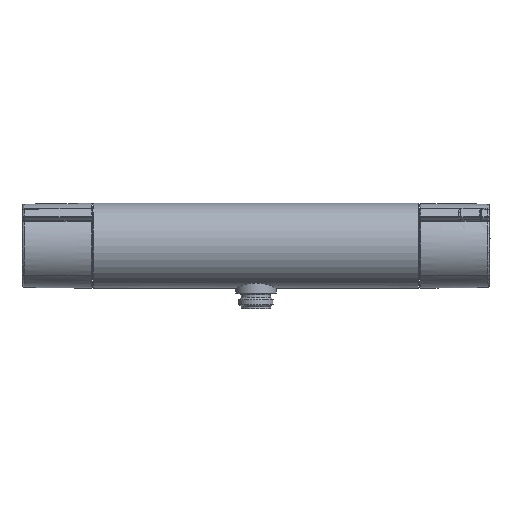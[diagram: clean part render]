
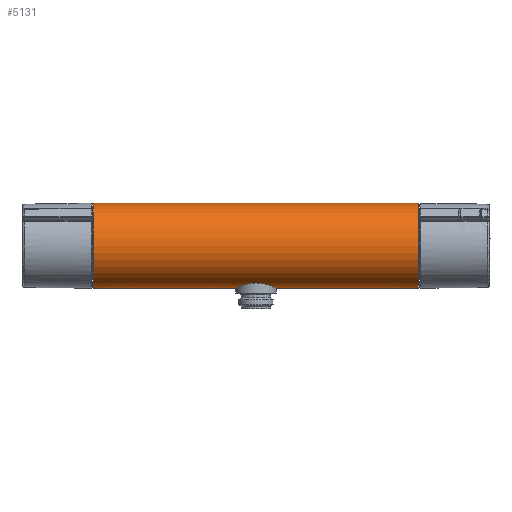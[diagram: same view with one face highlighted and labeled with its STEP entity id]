
A CAD part, top view. The second image highlights one B-rep face of the part: STEP entity #5131.
In plain terms, the highlighted cylindrical face has radius 26 mm (diameter 52 mm), a partial arc.
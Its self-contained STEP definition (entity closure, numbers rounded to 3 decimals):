
#156 = ORIENTED_EDGE ( 'NONE', *, *, #1881, .T. ) ;
#343 = LINE ( 'NONE', #6023, #4234 ) ;
#539 = CARTESIAN_POINT ( 'NONE',  ( 12.445, -25.609, 42.835 ) ) ;
#545 = CARTESIAN_POINT ( 'NONE',  ( -11.262, -25.062, 47.08 ) ) ;
#584 = CARTESIAN_POINT ( 'NONE',  ( -3.222, -22.657, 53.681 ) ) ;
#618 = CARTESIAN_POINT ( 'NONE',  ( 6.834, -23.434, 52.071 ) ) ;
#852 = VERTEX_POINT ( 'NONE', #8464 ) ;
#1198 = AXIS2_PLACEMENT_3D ( 'NONE', #8927, #8166, #4966 ) ;
#1203 = CYLINDRICAL_SURFACE ( 'NONE', #1198, 26. ) ;
#1279 = CARTESIAN_POINT ( 'NONE',  ( 8.983, -24.133, 50.325 ) ) ;
#1322 = CARTESIAN_POINT ( 'NONE',  ( -10.237, -24.626, 48.781 ) ) ;
#1354 = CARTESIAN_POINT ( 'NONE',  ( -1.238, -22.453, 54.062 ) ) ;
#1364 = DIRECTION ( 'NONE',  ( 1., 0., 0. ) ) ;
#1393 = CARTESIAN_POINT ( 'NONE',  ( 7.799, -23.729, 51.374 ) ) ;
#1711 = DIRECTION ( 'NONE',  ( 1., 0., 0. ) ) ;
#1881 = EDGE_CURVE ( 'NONE', #7948, #4400, #9661, .T. ) ;
#2054 = CARTESIAN_POINT ( 'NONE',  ( 10.226, -24.621, 48.797 ) ) ;
#2091 = CARTESIAN_POINT ( 'NONE',  ( -9.506, -24.335, 49.723 ) ) ;
#2118 = CARTESIAN_POINT ( 'NONE',  ( 0.383, -22.433, 54.098 ) ) ;
#2323 = EDGE_CURVE ( 'NONE', #5332, #852, #5660, .T. ) ;
#2669 = ORIENTED_EDGE ( 'NONE', *, *, #4694, .T. ) ;
#2747 = AXIS2_PLACEMENT_3D ( 'NONE', #8349, #3600, #9135 ) ;
#2822 = CARTESIAN_POINT ( 'NONE',  ( 10.869, -24.891, 47.784 ) ) ;
#2866 = CARTESIAN_POINT ( 'NONE',  ( -8.425, -23.935, 50.865 ) ) ;
#2903 = CARTESIAN_POINT ( 'NONE',  ( 1.609, -22.487, 54. ) ) ;
#3087 = ORIENTED_EDGE ( 'NONE', *, *, #5365, .F. ) ;
#3116 = LINE ( 'NONE', #5443, #5467 ) ;
#3352 = CARTESIAN_POINT ( 'NONE',  ( 12.5, -25.635, 41.736 ) ) ;
#3498 = FACE_OUTER_BOUND ( 'NONE', #3701, .T. ) ;
#3550 = CARTESIAN_POINT ( 'NONE',  ( -12.5, -25.635, 42.419 ) ) ;
#3600 = DIRECTION ( 'NONE',  ( 1., 0., 0. ) ) ;
#3618 = CARTESIAN_POINT ( 'NONE',  ( 11.583, -25.205, 46.363 ) ) ;
#3663 = CARTESIAN_POINT ( 'NONE',  ( -6.521, -23.339, 52.291 ) ) ;
#3695 = CARTESIAN_POINT ( 'NONE',  ( 3.586, -22.702, 53.599 ) ) ;
#3701 = EDGE_LOOP ( 'NONE', ( #8866, #4577, #9718, #156, #2669, #6136, #3087 ) ) ;
#4234 = VECTOR ( 'NONE', #1364, 1000. ) ;
#4270 = CARTESIAN_POINT ( 'NONE',  ( 57., 26.365, 41.597 ) ) ;
#4400 = VERTEX_POINT ( 'NONE', #8273 ) ;
#4414 = CARTESIAN_POINT ( 'NONE',  ( 12.179, -25.482, 44.441 ) ) ;
#4420 = CARTESIAN_POINT ( 'NONE',  ( -12.088, -25.44, 44.806 ) ) ;
#4451 = CARTESIAN_POINT ( 'NONE',  ( -4.748, -22.92, 53.167 ) ) ;
#4486 = CARTESIAN_POINT ( 'NONE',  ( 5.093, -22.993, 53.019 ) ) ;
#4577 = ORIENTED_EDGE ( 'NONE', *, *, #4877, .T. ) ;
#4694 = EDGE_CURVE ( 'NONE', #4400, #5813, #6453, .T. ) ;
#4877 = EDGE_CURVE ( 'NONE', #5332, #8482, #8961, .T. ) ;
#4900 = CARTESIAN_POINT ( 'NONE',  ( 12.481, -25.626, 42.292 ) ) ;
#4966 = DIRECTION ( 'NONE',  ( 0., -1., 0. ) ) ;
#5131 = ADVANCED_FACE ( 'NONE', ( #3498 ), #1203, .T. ) ;
#5169 = CARTESIAN_POINT ( 'NONE',  ( -12.5, -25.635, 41.597 ) ) ;
#5199 = CARTESIAN_POINT ( 'NONE',  ( 12.399, -25.587, 43.237 ) ) ;
#5210 = CARTESIAN_POINT ( 'NONE',  ( -11.718, -25.268, 45.966 ) ) ;
#5248 = CARTESIAN_POINT ( 'NONE',  ( -3.615, -22.715, 53.57 ) ) ;
#5287 = CARTESIAN_POINT ( 'NONE',  ( 6.158, -23.248, 52.482 ) ) ;
#5332 = VERTEX_POINT ( 'NONE', #7702 ) ;
#5359 = CIRCLE ( 'NONE', #6979, 26. ) ;
#5365 = EDGE_CURVE ( 'NONE', #852, #7241, #5359, .T. ) ;
#5443 = CARTESIAN_POINT ( 'NONE',  ( 57., -25.635, 41.597 ) ) ;
#5467 = VECTOR ( 'NONE', #7031, 1000. ) ;
#5511 = CARTESIAN_POINT ( 'NONE',  ( 12.5, -25.635, 41.597 ) ) ;
#5660 = LINE ( 'NONE', #4270, #9870 ) ;
#5813 = VERTEX_POINT ( 'NONE', #5511 ) ;
#5969 = CARTESIAN_POINT ( 'NONE',  ( 8.106, -23.83, 51.12 ) ) ;
#6002 = CARTESIAN_POINT ( 'NONE',  ( 12.472, -25.622, 42.431 ) ) ;
#6012 = CARTESIAN_POINT ( 'NONE',  ( -10.891, -24.898, 47.783 ) ) ;
#6023 = CARTESIAN_POINT ( 'NONE',  ( 57., -25.635, 41.597 ) ) ;
#6047 = CARTESIAN_POINT ( 'NONE',  ( -2.038, -22.511, 53.956 ) ) ;
#6084 = CARTESIAN_POINT ( 'NONE',  ( 7.162, -23.53, 51.849 ) ) ;
#6136 = ORIENTED_EDGE ( 'NONE', *, *, #7880, .T. ) ;
#6401 = CARTESIAN_POINT ( 'NONE',  ( 99.5, 0.365, 41.597 ) ) ;
#6453 = B_SPLINE_CURVE_WITH_KNOTS ( 'NONE', 3,
 ( #9641, #4900, #8109, #3352, #8900 ),
 .UNSPECIFIED., .F., .F.,
 ( 4, 1, 4 ),
 ( 0.039, 0.039, 0.04 ),
 .UNSPECIFIED. ) ;
#6511 = CARTESIAN_POINT ( 'NONE',  ( 99.5, -25.635, 41.597 ) ) ;
#6744 = CARTESIAN_POINT ( 'NONE',  ( 9.512, -24.334, 49.745 ) ) ;
#6790 = CARTESIAN_POINT ( 'NONE',  ( -10.002, -24.53, 49.105 ) ) ;
#6834 = CARTESIAN_POINT ( 'NONE',  ( -0.024, -22.43, 54.104 ) ) ;
#6979 = AXIS2_PLACEMENT_3D ( 'NONE', #6401, #1711, #7196 ) ;
#7031 = DIRECTION ( 'NONE',  ( 1., 0., 0. ) ) ;
#7196 = DIRECTION ( 'NONE',  ( 0., -1., 0. ) ) ;
#7241 = VERTEX_POINT ( 'NONE', #6511 ) ;
#7552 = CARTESIAN_POINT ( 'NONE',  ( 10.451, -24.714, 48.466 ) ) ;
#7601 = CARTESIAN_POINT ( 'NONE',  ( -9.246, -24.236, 50.019 ) ) ;
#7635 = CARTESIAN_POINT ( 'NONE',  ( 1.203, -22.461, 54.046 ) ) ;
#7702 = CARTESIAN_POINT ( 'NONE',  ( -99.5, 26.365, 41.597 ) ) ;
#7827 = CARTESIAN_POINT ( 'NONE',  ( -12.5, -25.635, 41.597 ) ) ;
#7880 = EDGE_CURVE ( 'NONE', #5813, #7241, #343, .T. ) ;
#7948 = VERTEX_POINT ( 'NONE', #7827 ) ;
#8109 = CARTESIAN_POINT ( 'NONE',  ( 12.495, -25.633, 42.015 ) ) ;
#8166 = DIRECTION ( 'NONE',  ( 1., 0., 0. ) ) ;
#8273 = CARTESIAN_POINT ( 'NONE',  ( 12.472, -25.622, 42.431 ) ) ;
#8349 = CARTESIAN_POINT ( 'NONE',  ( -99.5, 0.365, 41.597 ) ) ;
#8368 = CARTESIAN_POINT ( 'NONE',  ( 11.06, -24.974, 47.435 ) ) ;
#8376 = CARTESIAN_POINT ( 'NONE',  ( -12.42, -25.597, 43.226 ) ) ;
#8410 = CARTESIAN_POINT ( 'NONE',  ( -7.825, -23.731, 51.377 ) ) ;
#8453 = CARTESIAN_POINT ( 'NONE',  ( 2.808, -22.592, 53.805 ) ) ;
#8464 = CARTESIAN_POINT ( 'NONE',  ( 99.5, 26.365, 41.597 ) ) ;
#8482 = VERTEX_POINT ( 'NONE', #8881 ) ;
#8866 = ORIENTED_EDGE ( 'NONE', *, *, #2323, .F. ) ;
#8881 = CARTESIAN_POINT ( 'NONE',  ( -99.5, -25.635, 41.597 ) ) ;
#8900 = CARTESIAN_POINT ( 'NONE',  ( 12.5, -25.635, 41.597 ) ) ;
#8927 = CARTESIAN_POINT ( 'NONE',  ( 57., 0.365, 41.597 ) ) ;
#8961 = CIRCLE ( 'NONE', #2747, 26. ) ;
#9011 = EDGE_CURVE ( 'NONE', #8482, #7948, #3116, .T. ) ;
#9013 = DIRECTION ( 'NONE',  ( 1., 0., 0. ) ) ;
#9135 = DIRECTION ( 'NONE',  ( 0., -1., 0. ) ) ;
#9153 = CARTESIAN_POINT ( 'NONE',  ( 11.864, -25.335, 45.615 ) ) ;
#9160 = CARTESIAN_POINT ( 'NONE',  ( -12.185, -25.485, 44.414 ) ) ;
#9195 = CARTESIAN_POINT ( 'NONE',  ( -5.833, -23.157, 52.681 ) ) ;
#9226 = CARTESIAN_POINT ( 'NONE',  ( 4.723, -22.914, 53.178 ) ) ;
#9641 = CARTESIAN_POINT ( 'NONE',  ( 12.472, -25.622, 42.431 ) ) ;
#9661 = B_SPLINE_CURVE_WITH_KNOTS ( 'NONE', 3,
 ( #5169, #3550, #8376, #9160, #4420, #9945, #5210, #545, #6012, #1322, #6790, #2091, #7601, #2866, #8410, #3663, #9195, #4451, #9977, #5248, #584, #6047, #1354, #6834, #2118, #7635, #2903, #8453, #3695, #9226, #4486, #10012, #5287, #618, #6084, #1393, #5969, #1279, #6744, #2054, #7552, #2822, #8368, #3618, #9153, #4414, #9938, #5199, #539, #6002 ),
 .UNSPECIFIED., .F., .F.,
 ( 4, 2, 2, 2, 2, 2, 2, 2, 2, 2, 2, 2, 2, 2, 2, 2, 2, 2, 2, 2, 2, 2, 2, 2, 4 ),
 ( 0., 0.002, 0.004, 0.005, 0.007, 0.009, 0.01, 0.012, 0.015, 0.016, 0.017, 0.019, 0.021, 0.022, 0.024, 0.026, 0.027, 0.028, 0.029, 0.032, 0.033, 0.034, 0.036, 0.038, 0.039 ),
 .UNSPECIFIED. ) ;
#9718 = ORIENTED_EDGE ( 'NONE', *, *, #9011, .T. ) ;
#9870 = VECTOR ( 'NONE', #9013, 1000. ) ;
#9938 = CARTESIAN_POINT ( 'NONE',  ( 12.266, -25.524, 44.039 ) ) ;
#9945 = CARTESIAN_POINT ( 'NONE',  ( -11.855, -25.331, 45.583 ) ) ;
#9977 = CARTESIAN_POINT ( 'NONE',  ( -4.377, -22.847, 53.313 ) ) ;
#10012 = CARTESIAN_POINT ( 'NONE',  ( 5.81, -23.16, 52.672 ) ) ;
